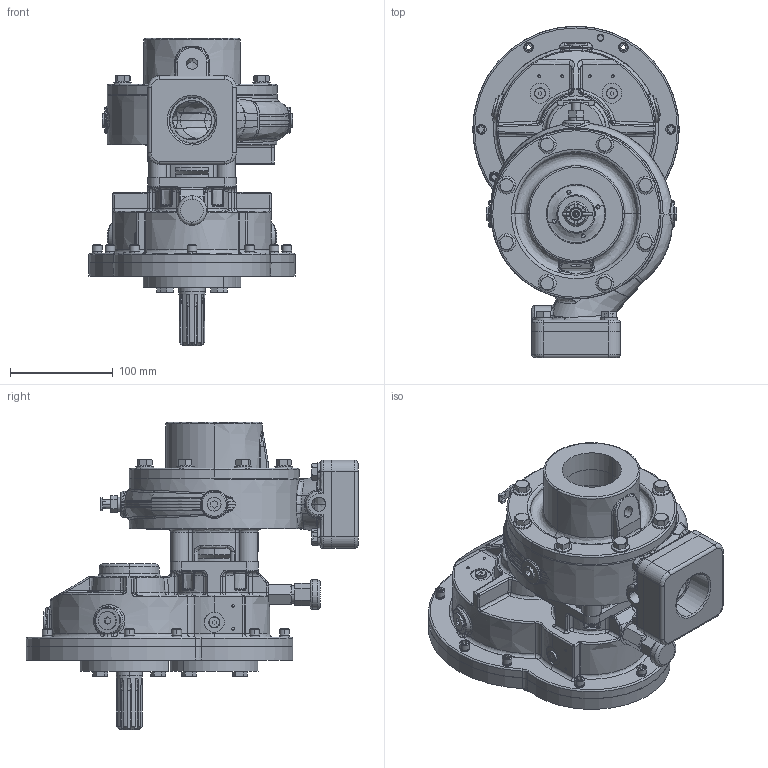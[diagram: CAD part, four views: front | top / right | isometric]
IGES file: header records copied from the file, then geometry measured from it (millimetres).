
Start section:  PTC IGES file: dad0250.igs
Global section: file name: dad0250.igs; native system: Creo Parametric by Parametric Technology Corporation; preprocessor: 2013150; author: SMS; organization: Unknown; date: 20140204.115023; units: inch
Bounding box: 200.68 x 322.53 x 298.56 mm (x, y, z)
Surface area: 588494.6 mm2 (no closed solid volume)
Topology: 0 solids, 0 shells, 1982 faces, 10122 edges, 10114 vertices
Faces by surface type: revolution 1042, bspline 940
